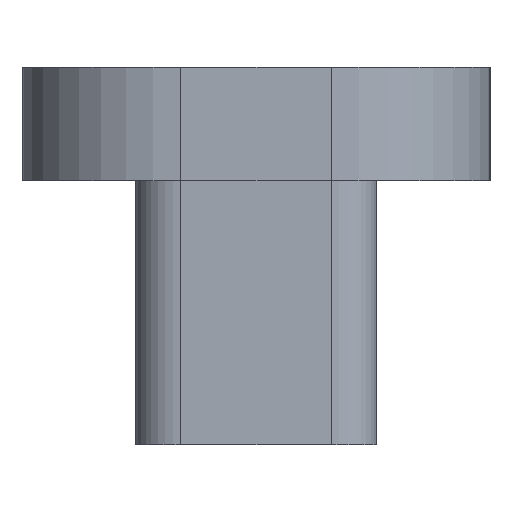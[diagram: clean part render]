
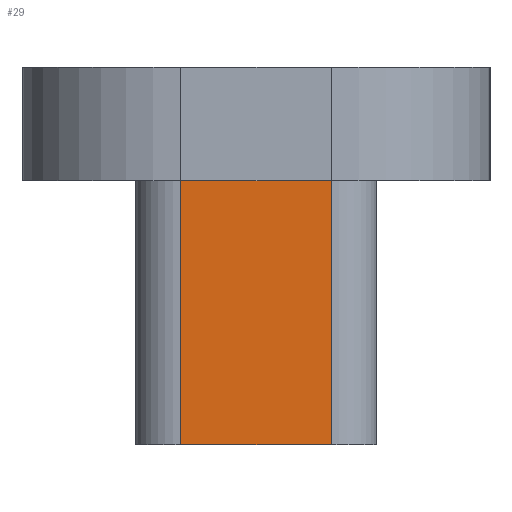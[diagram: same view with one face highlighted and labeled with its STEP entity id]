
A CAD part, left-side view. The second image highlights one B-rep face of the part: STEP entity #29.
In plain terms, the highlighted planar face has unit normal (-1, 0, 0).
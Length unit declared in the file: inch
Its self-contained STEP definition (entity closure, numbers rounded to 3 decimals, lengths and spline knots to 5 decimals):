
#29 = ADVANCED_FACE ( 'NONE', ( #86 ), #242, .F. ) ;
#47 = DIRECTION ( 'NONE',  ( 0., 0., 1. ) ) ;
#61 = CARTESIAN_POINT ( 'NONE',  ( 0.21941, -2.075, -0.075 ) ) ;
#86 = FACE_OUTER_BOUND ( 'NONE', #753, .T. ) ;
#125 = VECTOR ( 'NONE', #47, 39.37008 ) ;
#139 = LINE ( 'NONE', #333, #1126 ) ;
#152 = AXIS2_PLACEMENT_3D ( 'NONE', #809, #615, #1090 ) ;
#191 = LINE ( 'NONE', #626, #332 ) ;
#233 = DIRECTION ( 'NONE',  ( 0., 1., 0. ) ) ;
#240 = ORIENTED_EDGE ( 'NONE', *, *, #819, .T. ) ;
#242 = PLANE ( 'NONE',  #152 ) ;
#258 = CARTESIAN_POINT ( 'NONE',  ( 0.21941, -2.075, -0.25 ) ) ;
#328 = VERTEX_POINT ( 'NONE', #708 ) ;
#332 = VECTOR ( 'NONE', #635, 39.37008 ) ;
#333 = CARTESIAN_POINT ( 'NONE',  ( 0.21941, -2.175, -0.075 ) ) ;
#434 = VERTEX_POINT ( 'NONE', #928 ) ;
#460 = LINE ( 'NONE', #738, #1112 ) ;
#615 = DIRECTION ( 'NONE',  ( 1., 0., 0. ) ) ;
#626 = CARTESIAN_POINT ( 'NONE',  ( 0.21941, -2.175, -0.25 ) ) ;
#635 = DIRECTION ( 'NONE',  ( 0., 1., 0. ) ) ;
#708 = CARTESIAN_POINT ( 'NONE',  ( 0.21941, -2.175, -0.075 ) ) ;
#738 = CARTESIAN_POINT ( 'NONE',  ( 0.21941, -2.075, -0.73703 ) ) ;
#753 = EDGE_LOOP ( 'NONE', ( #1168, #240, #1101, #926 ) ) ;
#780 = EDGE_CURVE ( 'NONE', #784, #924, #460, .T. ) ;
#784 = VERTEX_POINT ( 'NONE', #258 ) ;
#809 = CARTESIAN_POINT ( 'NONE',  ( 0.21941, -2.175, -0.73703 ) ) ;
#819 = EDGE_CURVE ( 'NONE', #434, #328, #1096, .T. ) ;
#915 = CARTESIAN_POINT ( 'NONE',  ( 0.21941, -2.175, -0.73703 ) ) ;
#924 = VERTEX_POINT ( 'NONE', #61 ) ;
#926 = ORIENTED_EDGE ( 'NONE', *, *, #780, .F. ) ;
#928 = CARTESIAN_POINT ( 'NONE',  ( 0.21941, -2.175, -0.25 ) ) ;
#1082 = EDGE_CURVE ( 'NONE', #434, #784, #191, .T. ) ;
#1090 = DIRECTION ( 'NONE',  ( 0., 0., -1. ) ) ;
#1096 = LINE ( 'NONE', #915, #125 ) ;
#1101 = ORIENTED_EDGE ( 'NONE', *, *, #1141, .T. ) ;
#1112 = VECTOR ( 'NONE', #1208, 39.37008 ) ;
#1126 = VECTOR ( 'NONE', #233, 39.37008 ) ;
#1141 = EDGE_CURVE ( 'NONE', #328, #924, #139, .T. ) ;
#1168 = ORIENTED_EDGE ( 'NONE', *, *, #1082, .F. ) ;
#1208 = DIRECTION ( 'NONE',  ( 0., 0., 1. ) ) ;
